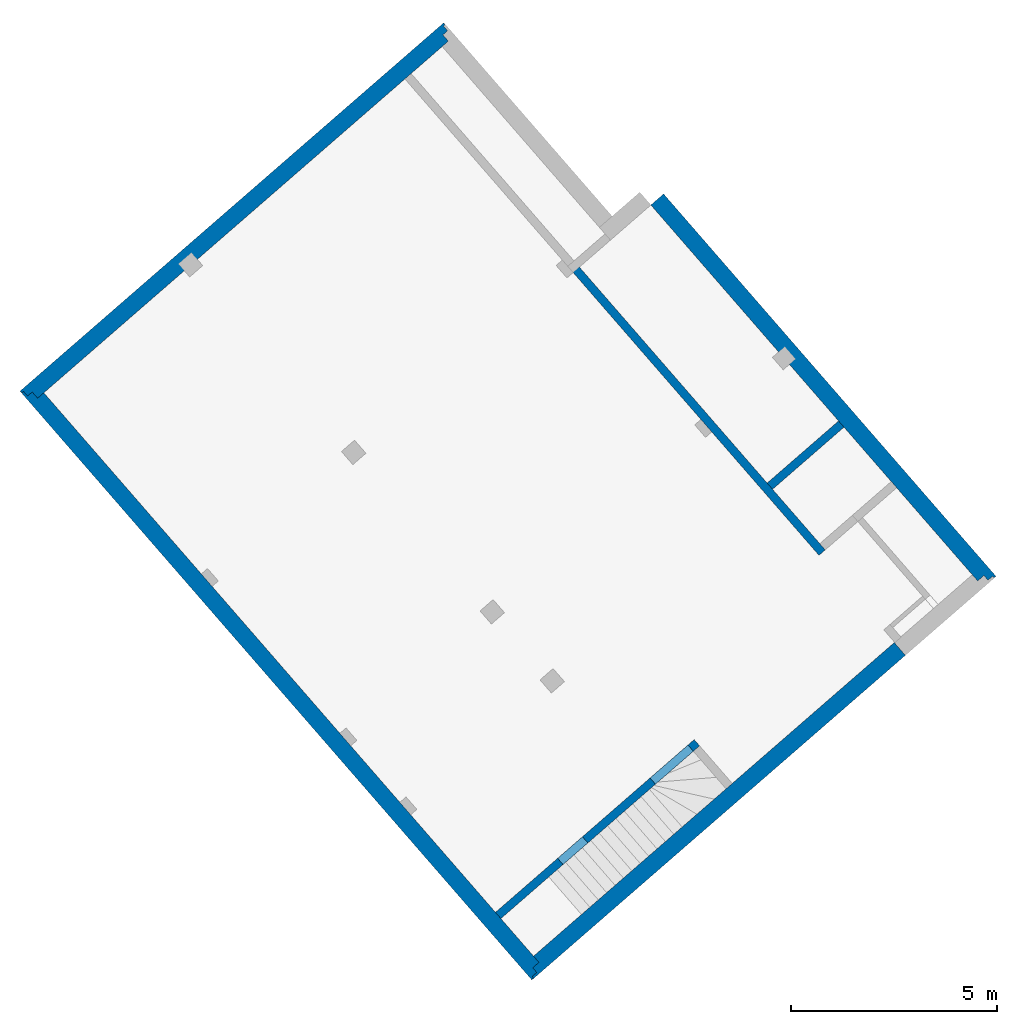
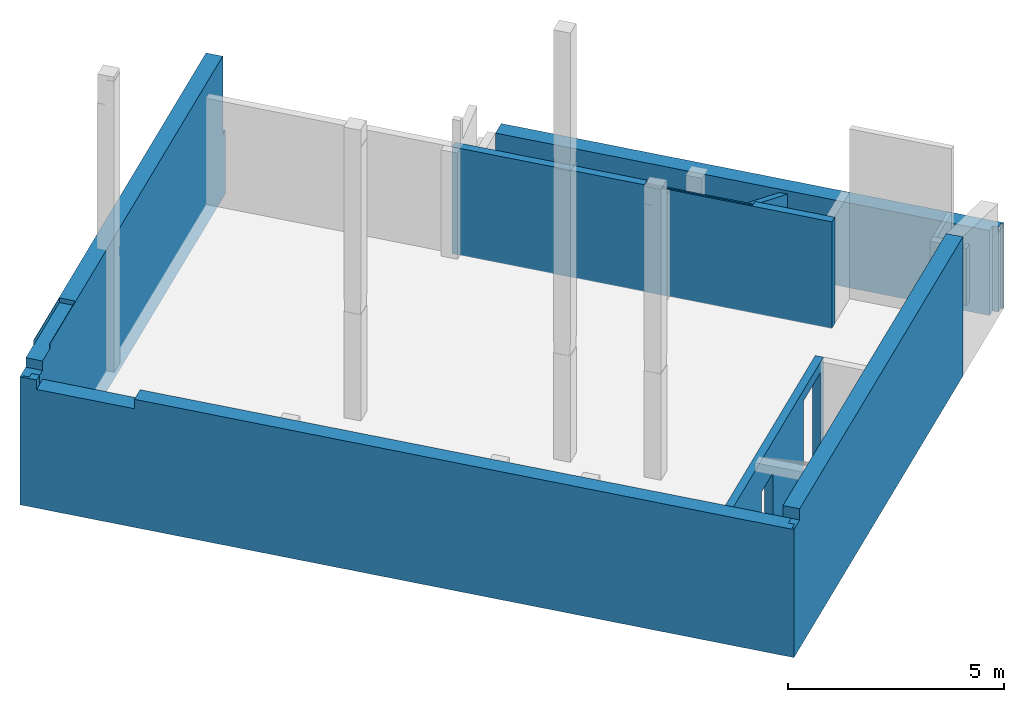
# One storey, part 3 of 4: 7 walls.
"""IFC2X3 building model written with IfcOpenShell, lengths in millimetres."""

from ifc_helpers import new_model, entity, si_unit, converted_unit, derived_unit, money_unit, direction, frame, origin_with_axes, place, context, subcontext, project, spatial, faceted_brep, material, material_list, type_object, element, save


model = new_model("IFC2X3")

# Units and contexts
model_context = context("Model", 3, precision=1e-05, world=origin_with_axes(), true_north=direction((0.0, 1.0)))
body_context = subcontext(model_context, "Body", "Model", "MODEL_VIEW")
ifc_project = project(units=[si_unit("LENGTHUNIT", "METRE", prefix="MILLI"), si_unit("AREAUNIT", "SQUARE_METRE"), si_unit("VOLUMEUNIT", "CUBIC_METRE"), converted_unit("PLANEANGLEUNIT", "DEGREE", entity("IfcPlaneAngleMeasure", 0.0174532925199), si_unit("PLANEANGLEUNIT", "RADIAN"), dimensions=[0, 0, 0, 0, 0, 0, 0]), si_unit("SOLIDANGLEUNIT", "STERADIAN"), money_unit("EUR"), converted_unit("TIMEUNIT", "Year", entity("IfcTimeMeasure", 31556926.0), si_unit("TIMEUNIT", "SECOND"), dimensions=[0, 0, 1, 0, 0, 0, 0]), si_unit("MASSUNIT", "GRAM", prefix="KILO"), si_unit("THERMODYNAMICTEMPERATUREUNIT", "DEGREE_CELSIUS"), si_unit("LUMINOUSINTENSITYUNIT", "LUMEN"), si_unit("ENERGYUNIT", "JOULE", prefix="MEGA"), derived_unit("THERMALCONDUCTANCEUNIT", [(si_unit("POWERUNIT", "WATT"), 1), (si_unit("LENGTHUNIT", "METRE"), -1), (si_unit("THERMODYNAMICTEMPERATUREUNIT", "KELVIN"), -1)]), derived_unit("SPECIFICHEATCAPACITYUNIT", [(si_unit("ENERGYUNIT", "JOULE"), 1), (si_unit("MASSUNIT", "GRAM", prefix="KILO"), -1), (si_unit("THERMODYNAMICTEMPERATUREUNIT", "KELVIN"), -1)]), derived_unit("MASSDENSITYUNIT", [(si_unit("MASSUNIT", "GRAM", prefix="KILO"), 1), (si_unit("VOLUMEUNIT", "CUBIC_METRE"), -1)])], contexts=[model_context])

# Site, building, storey
site_placement = place(None, origin_with_axes())
site = spatial("IfcSite", under=ifc_project, at=site_placement, Name="Site", CompositionType="ELEMENT")
building_placement = place(site_placement, origin_with_axes())
building = spatial("IfcBuilding", under=site, at=building_placement, Name="Building", CompositionType="ELEMENT")
storey_placement = place(building_placement, frame((0.0, 0.0, -3415.0), z_axis=(0.0, 0.0, 1.0), x_axis=(1.0, 0.0, 0.0)))
storey = spatial("IfcBuildingStorey", under=building, at=storey_placement, Name="-1 korrus", CompositionType="ELEMENT", Elevation=-3415.0)

# Walls
ifc_material_1 = material(Name="Raudbetoon - Konstruktsioon")
ifc_material_2 = material(Name="Soojustus - Plastik Kõva")
ifc_material_3 = material(Name="Membraan - Veekindel")
ifc_material_list_1 = material_list([ifc_material_1, ifc_material_2, ifc_material_2, ifc_material_3, ifc_material_3])
wall_type_1 = type_object("IfcWallType", Name="VS-03*", PredefinedType="NOTDEFINED")
wall_1_placement = place(storey_placement, frame((137502.715935, 88874.0463807, -620.0), z_axis=(0.0, 0.0, 1.0), x_axis=(-0.754709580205, -0.65605902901, 0.0)))
element("IfcWall", 1, at=wall_1_placement, inside=storey, type_object=wall_type_1, material=ifc_material_list_1, Name="VS-03*", context=body_context, shape_type="Brep", body=[
    faceted_brep([(13020.0000057, 0.0, 0.0), (13020.0000057, 0.0, 3620.0), (13020.0000057, -200.0, 3620.0), (13020.0000057, -200.0, 0.0), (-200.0, 0.0, 0.0), (-200.0, 0.0, 1800.0), (0.0, 0.0, 1800.0), (0.0, 9.38544530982e-06, 2400.0), (0.0, 0.0, 4014.99999837), (12285.0000076, 3.14038288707e-05, 4014.99999864), (12285.0000076, 3.14038288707e-05, 3884.99999837), (12820.0000057, 0.0, 3884.99999837), (12820.0000057, 0.0, 3620.0), (12820.0000057, -200.0, 3620.0), (12820.0000057, -200.0, 3884.99999837), (12285.0000107, -200.0, 3884.99999837), (10460.0000101, -200.0, 3884.99999837), (10460.0000101, -200.0, 4015.0), (0.0, -200.0, 4014.99999837), (0.0, -200.000007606, 2400.0), (9.99999985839, -200.0, 2400.0), (9.99999985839, -200.0, 1800.0), (-200.0, -200.0, 1800.0), (-200.0, -200.0, 0.0), (9.99999984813, -10.0000008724, 1800.0), (0.0, -10.0000008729, 1800.0), (0.0, -10.0000008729, 2400.0), (12285.0000077, -9.99996859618, 4015.0), (10460.0000072, -9.99999712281, 4015.0), (12285.0000077, -9.99996859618, 3884.99999837), (10460.0000072, -9.99999712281, 3884.99999837), (9.99999984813, -10.0000008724, 2400.0)], [[[0, 1, 2, 3]], [[1, 0, 4, 5, 6, 7, 8, 9, 10, 11, 12]], [[1, 12, 13, 2]], [[3, 2, 13, 14, 15, 16, 17, 18, 19, 20, 21, 22, 23]], [[0, 3, 23, 4]], [[5, 4, 23, 22]], [[21, 24, 25, 6, 5, 22]], [[19, 18, 8, 7, 6, 25, 26]], [[27, 9, 8, 18, 17, 28]], [[27, 29, 10, 9]], [[14, 11, 10, 29, 15]], [[13, 12, 11, 14]], [[15, 29, 30, 16]], [[28, 17, 16, 30]], [[31, 20, 19, 26]], [[21, 20, 31, 24]], [[24, 31, 26, 25]], [[29, 27, 28, 30]]]),
    faceted_brep([(12285.000013, -350.0, 3884.99999837), (12285.0000107, -200.0, 3884.99999837), (10460.0000101, -200.0, 3884.99999837), (10460.0000125, -350.0, 3884.99999837), (12820.0000057, -350.0, 3884.99999837), (12820.0000057, -200.0, 3884.99999837), (12820.0000057, -200.0, 3620.0), (13170.0000057, -200.0, 3620.0), (13170.0000057, -200.0, 0.0), (-350.0, -200.0, 0.0), (-350.0, -200.0, 1800.0), (9.99999985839, -200.0, 1800.0), (9.99999985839, -200.0, 2400.0), (0.0, -200.000007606, 2400.0), (0.0, -200.0, 4014.99999837), (10460.0000101, -200.0, 4015.0), (10460.0000125, -350.0, 4015.0), (0.0, -350.0, 4014.99999837), (0.0, -350.0, 2400.0), (9.99999986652, -350.0, 2400.0), (9.99999986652, -350.0, 1800.0), (-349.999999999, -350.0, 1800.0), (-349.999999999, -350.0, 0.0), (13170.0000057, -350.0, 0.0), (13170.0000057, -350.0, 3620.0), (12820.0000057, -350.0, 3620.0)], [[[0, 1, 2, 3]], [[1, 0, 4, 5]], [[1, 5, 6, 7, 8, 9, 10, 11, 12, 13, 14, 15, 2]], [[2, 15, 16, 3]], [[4, 0, 3, 16, 17, 18, 19, 20, 21, 22, 23, 24, 25]], [[4, 25, 6, 5]], [[25, 24, 7, 6]], [[23, 8, 7, 24]], [[23, 22, 9, 8]], [[22, 21, 10, 9]], [[11, 10, 21, 20]], [[11, 20, 19, 12]], [[12, 19, 18, 13]], [[13, 18, 17, 14]], [[17, 16, 15, 14]]]),
    faceted_brep([(12285.0000138, -400.000000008, 3884.99999837), (12285.000013, -350.0, 3884.99999837), (10460.0000125, -350.0, 3884.99999837), (10460.0000133, -400.000000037, 3884.99999837), (12820.0000057, -400.0, 3884.99999837), (12820.0000057, -350.0, 3884.99999837), (12820.0000057, -350.0, 3620.0), (13220.0000057, -350.0, 3620.0), (13220.0000057, -350.0, 0.0), (-399.999999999, -350.0, 0.0), (-399.999999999, -350.0, 1800.0), (9.99999986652, -350.0, 1800.0), (9.99999986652, -350.0, 2400.0), (0.0, -350.0, 2400.0), (0.0, -350.0, 4014.99999837), (10460.0000125, -350.0, 4015.0), (10460.0000133, -400.0, 4014.99999837), (0.0, -400.0, 4014.99999837), (0.0, -400.00000247, 2400.0), (9.99999986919, -400.0, 2400.0), (9.99999986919, -400.0, 1800.0), (-399.999999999, -400.0, 1800.0), (-399.999999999, -400.0, 0.0), (13220.0000057, -400.0, 0.0), (13220.0000057, -400.0, 3620.0), (12820.0000057, -400.0, 3620.0)], [[[0, 1, 2, 3]], [[1, 0, 4, 5]], [[1, 5, 6, 7, 8, 9, 10, 11, 12, 13, 14, 15, 2]], [[2, 15, 16, 3]], [[4, 0, 3, 16, 17, 18, 19, 20, 21, 22, 23, 24, 25]], [[4, 25, 6, 5]], [[25, 24, 7, 6]], [[23, 8, 7, 24]], [[23, 22, 9, 8]], [[21, 10, 9, 22]], [[20, 11, 10, 21]], [[19, 12, 11, 20]], [[18, 13, 12, 19]], [[14, 13, 18, 17]], [[17, 16, 15, 14]]]),
    faceted_brep([(12285.0000139, -405.0, 4014.99999837), (12285.0000138, -400.0, 4014.99999837), (0.0, -400.0, 4014.99999837), (0.0, -405.0, 4014.99999837), (12285.0000138, -400.0, 3884.99999837), (12285.0000139, -405.0, 3884.99999837), (12820.0000057, -400.0, 3884.99999837), (12820.0000057, -400.0, 3620.0), (13225.0000057, -400.0, 3620.0), (13225.0000057, -400.0, 0.0), (-404.999999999, -400.0, 0.0), (-404.999999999, -400.0, 1800.0), (-409.999999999, -400.0, 1800.0), (-510.0, -400.0, 1800.0), (-510.0, -400.00000247, 2400.0), (0.0, -400.00000247, 2400.0), (0.0, -405.0, 2400.0), (-510.0, -405.0, 2400.0), (-510.0, -405.0, 1800.0), (-409.999999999, -405.0, 1800.0), (-404.999999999, -405.0, 1800.0), (-404.999999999, -405.0, 0.0), (13225.0000057, -405.0, 0.0), (13225.0000057, -405.0, 3620.0), (12820.0000057, -405.0, 3620.0), (12820.0000057, -405.0, 3884.99999837)], [[[0, 1, 2, 3]], [[4, 1, 0, 5]], [[4, 6, 7, 8, 9, 10, 11, 12, 13, 14, 15, 2, 1]], [[15, 16, 3, 2]], [[5, 0, 3, 16, 17, 18, 19, 20, 21, 22, 23, 24, 25]], [[6, 4, 5, 25]], [[6, 25, 24, 7]], [[24, 23, 8, 7]], [[22, 9, 8, 23]], [[22, 21, 10, 9]], [[20, 11, 10, 21]], [[20, 19, 12, 11]], [[13, 12, 19, 18]], [[13, 18, 17, 14]], [[16, 15, 14, 17]]]),
    faceted_brep([(12285.000014, -409.999968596, 4014.99999837), (12285.0000139, -405.0, 4014.99999837), (0.0, -405.0, 4014.99999837), (0.0, -410.0, 4014.99999837), (12285.0000139, -405.0, 3884.99999837), (12285.000014, -409.999968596, 3884.99999837), (12820.0000057, -405.0, 3884.99999837), (12820.0000057, -405.0, 3620.0), (13230.0000057, -405.0, 3620.0), (13230.0000057, -405.0, 0.0), (-409.999999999, -405.0, 0.0), (-409.999999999, -405.0, 1800.0), (-510.0, -405.0, 1800.0), (-510.0, -405.0, 2400.0), (0.0, -405.0, 2400.0), (0.0, -410.0, 2400.0), (-510.0, -410.0, 2400.0), (-510.0, -410.0, 1800.0), (-409.999999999, -410.0, 1800.0), (-409.999999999, -410.0, 0.0), (13230.0000057, -410.0, 0.0), (13230.0000057, -410.0, 3620.0), (12820.0000057, -410.0, 3620.0), (12820.0000057, -409.999960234, 3884.99999837)], [[[0, 1, 2, 3]], [[4, 1, 0, 5]], [[4, 6, 7, 8, 9, 10, 11, 12, 13, 14, 2, 1]], [[14, 15, 3, 2]], [[5, 0, 3, 15, 16, 17, 18, 19, 20, 21, 22, 23]], [[6, 4, 5, 23]], [[6, 23, 22, 7]], [[22, 21, 8, 7]], [[20, 9, 8, 21]], [[9, 20, 19, 10]], [[19, 18, 11, 10]], [[11, 18, 17, 12]], [[12, 17, 16, 13]], [[16, 15, 14, 13]]]),
])
wall_2_placement = place(storey_placement, frame((127827.339112, 80463.3696251, -620.0), z_axis=(0.0, 0.0, 1.0), x_axis=(0.656059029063, -0.75470958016, 0.0)))
element("IfcWall", 2, at=wall_2_placement, inside=storey, type_object=wall_type_1, material=ifc_material_list_1, Name="VS-03*", context=body_context, shape_type="Brep", body=[
    faceted_brep([(-0.000983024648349, -4.35955769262e-05, 3374.04884828), (2390.78269761, 0.0, 3374.04307221), (2390.80613206, 0.0, 3620.0), (18330.0000006, 0.0, 3620.0), (18330.0000006, 0.0, 0.0), (0.0, 0.0, 0.0), (-0.000985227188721, -200.0, 3364.05132466), (2390.40886082, -200.0, 3364.0455145), (2390.43324783, -200.0, 3620.0), (18329.9998791, -200.0, 3620.0), (18329.9998791, -200.0, 0.0), (-1.38271616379e-08, -200.0, 0.0)], [[[0, 1, 2, 3, 4, 5]], [[1, 0, 6, 7]], [[8, 2, 1, 7]], [[2, 8, 9, 3]], [[3, 9, 10, 4]], [[4, 10, 11, 5]], [[6, 0, 5, 11]], [[7, 6, 11, 10, 9, 8]]]),
    faceted_brep([(-0.000985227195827, -200.0, 3364.05132466), (2390.40886082, -200.0, 3364.0455145), (2390.43324783, -200.0, 3620.0), (18479.9998791, -200.0, 3620.0), (18479.9998791, -200.0, 0.0), (-200.000000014, -200.0, 0.0), (-200.000000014, -200.0, 3620.0), (-0.000985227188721, -200.0, 3620.0), (-0.000986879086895, -350.0, 3356.5531803), (2390.12848323, -350.0, 3356.54734622), (2390.15358466, -350.0, 3620.0), (18479.999788, -350.0, 3620.0), (18479.999788, -350.0, 0.0), (-200.000000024, -350.0, 0.0), (-200.000000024, -350.0, 3620.0), (-0.000986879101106, -350.0, 3620.0)], [[[0, 1, 2, 3, 4, 5, 6, 7]], [[1, 0, 8, 9]], [[10, 2, 1, 9]], [[2, 10, 11, 3]], [[3, 11, 12, 4]], [[4, 12, 13, 5]], [[13, 14, 6, 5]], [[15, 7, 6, 14]], [[0, 7, 15, 8]], [[8, 15, 14, 13, 12, 11, 10, 9]]]),
    faceted_brep([(-0.000986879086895, -350.0, 3356.5531803), (2390.12848323, -350.0, 3356.54734622), (2390.15358466, -350.0, 3620.0), (18529.999788, -350.0, 3620.0), (18529.999788, -350.0, 0.0), (-350.000000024, -350.0, 0.0), (-350.000000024, -350.0, 3620.0), (-0.000986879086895, -350.0, 3620.0), (-0.000987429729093, -400.0, 3354.05379885), (2390.03502403, -400.0, 3354.04795679), (2390.06219822, -400.0, 3620.0), (18529.9997576, -400.0, 3620.0), (18529.9997576, -400.0, 0.0), (-350.000000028, -400.0, 0.0), (-350.000000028, -400.0, 3620.0), (-0.000436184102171, -400.0, 3620.0)], [[[0, 1, 2, 3, 4, 5, 6, 7]], [[1, 0, 8, 9]], [[2, 1, 9, 10]], [[2, 10, 11, 3]], [[11, 12, 4, 3]], [[12, 13, 5, 4]], [[14, 6, 5, 13]], [[7, 6, 14, 15]], [[0, 7, 15, 8]], [[8, 15, 14, 13, 12, 11, 10, 9]]]),
    faceted_brep([(-0.000987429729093, -400.0, 3354.05379885), (2390.03502403, -400.0, 3354.04795679), (2390.06219822, -400.0, 3620.0), (18534.9997576, -400.0, 3620.0), (18534.9997576, -400.0, 0.0), (-400.000000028, -400.0, 0.0), (-400.000000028, -400.0, 3620.0), (-0.000436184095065, -400.0, 3620.0), (-0.000987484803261, -405.0, 3353.80386071), (2390.02567811, -405.0, 3353.79801785), (2390.05285408, -405.0, 3620.0), (18534.9997546, -405.0, 3620.0), (18534.9997546, -405.0, 0.0), (-400.000000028, -405.0, 0.0), (-400.000000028, -405.0, 3620.0), (-0.000436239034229, -405.0, 3620.0)], [[[0, 1, 2, 3, 4, 5, 6, 7]], [[1, 0, 8, 9]], [[2, 1, 9, 10]], [[3, 2, 10, 11]], [[11, 12, 4, 3]], [[12, 13, 5, 4]], [[14, 6, 5, 13]], [[14, 15, 7, 6]], [[0, 7, 15, 8]], [[8, 15, 14, 13, 12, 11, 10, 9]]]),
    faceted_brep([(-0.00098748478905, -405.0, 3353.80386071), (2390.02567811, -405.0, 3353.79801785), (2390.05285408, -405.0, 3620.0), (18539.9997546, -405.0, 3620.0), (18539.9997546, -405.0, 0.0), (-405.000000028, -405.0, 0.0), (-405.000000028, -405.0, 3620.0), (-0.000436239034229, -405.0, 3620.0), (-0.000987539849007, -410.0, 3353.55392256), (2390.01633219, -410.0, 3353.54807891), (2390.04350995, -410.0, 3620.0), (18539.9997516, -410.0, 3620.0), (18539.9997516, -410.0, 0.0), (-405.000000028, -410.0, 0.0), (-405.000000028, -410.0, 3620.0), (-0.000436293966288, -410.0, 3620.0)], [[[0, 1, 2, 3, 4, 5, 6, 7]], [[1, 0, 8, 9]], [[2, 1, 9, 10]], [[3, 2, 10, 11]], [[11, 12, 4, 3]], [[12, 13, 5, 4]], [[14, 6, 5, 13]], [[14, 15, 7, 6]], [[0, 7, 15, 8]], [[8, 15, 14, 13, 12, 11, 10, 9]]]),
])
wall_3_placement = place(storey_placement, frame((150378.185009, 76044.0425452, -620.0), z_axis=(0.0, 0.0, 1.0), x_axis=(-0.656059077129, 0.754709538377, 0.0)))
element("IfcWall", 3, at=wall_3_placement, inside=storey, type_object=wall_type_1, material=ifc_material_list_1, Name="VS-03*", context=body_context, shape_type="Brep", body=[
    faceted_brep([(11899.9945492, -200.0, 2400.0), (11899.9945492, 0.0, 2400.0), (-200.000000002, 0.0, 2400.0), (-199.999016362, -200.0, 2400.0), (11899.9945492, -200.0, 0.0), (11899.9945492, 0.0, 0.0), (-200.000000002, 0.0, 0.0), (-199.999016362, -200.0, 0.0)], [[[0, 1, 2, 3]], [[0, 4, 5, 1]], [[1, 5, 6, 2]], [[3, 2, 6, 7]], [[4, 0, 3, 7]], [[5, 4, 7, 6]]]),
    faceted_brep([(11899.9945492, -350.0, 2400.0), (11899.9945492, -200.0, 2400.0), (-349.999016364, -200.0, 2400.0), (-349.998278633, -350.0, 2400.0), (11899.9945492, -350.0, 0.0), (11899.9945492, -200.0, 0.0), (-349.999016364, -200.0, 0.0), (-349.998278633, -350.0, 0.0)], [[[0, 1, 2, 3]], [[0, 4, 5, 1]], [[1, 5, 6, 2]], [[3, 2, 6, 7]], [[4, 0, 3, 7]], [[5, 4, 7, 6]]]),
    faceted_brep([(11899.9945492, -400.0, 2400.0), (11899.9945492, -350.0, 2400.0), (-399.998278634, -350.0, 2400.0), (-399.998032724, -400.0, 2400.0), (11899.9945492, -400.0, 0.0), (11899.9945492, -350.0, 0.0), (-399.998278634, -350.0, 0.0), (-399.998032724, -400.0, 0.0)], [[[0, 1, 2, 3]], [[0, 4, 5, 1]], [[1, 5, 6, 2]], [[3, 2, 6, 7]], [[4, 0, 3, 7]], [[5, 4, 7, 6]]]),
    faceted_brep([(11899.9945492, -405.0, 2400.0), (11899.9945492, -400.0, 2400.0), (-404.998032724, -400.0, 2400.0), (-404.998008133, -405.0, 2400.0), (11899.9945492, -405.0, 0.0), (11899.9945492, -400.0, 0.0), (-404.998032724, -400.0, 0.0), (-404.998008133, -405.0, 0.0)], [[[0, 1, 2, 3]], [[0, 4, 5, 1]], [[1, 5, 6, 2]], [[3, 2, 6, 7]], [[4, 0, 3, 7]], [[5, 4, 7, 6]]]),
    faceted_brep([(11899.9945492, -410.0, 2400.0), (11899.9945492, -405.0, 2400.0), (-409.998008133, -405.0, 2400.0), (-409.997983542, -410.0, 2400.0), (11899.9945492, -410.0, 0.0), (11899.9945492, -405.0, 0.0), (-409.998008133, -405.0, 0.0), (-409.997983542, -410.0, 0.0)], [[[0, 1, 2, 3]], [[0, 4, 5, 1]], [[1, 5, 6, 2]], [[3, 2, 6, 7]], [[4, 0, 3, 7]], [[5, 4, 7, 6]]]),
])
ifc_material_list_2 = material_list([ifc_material_3, ifc_material_3, ifc_material_2, ifc_material_2, ifc_material_1])
wall_4_placement = place(storey_placement, frame((148483.872162, 74397.3249406, -620.0), z_axis=(0.0, 0.0, 1.0), x_axis=(-0.754709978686, -0.656058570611, 0.0)))
element("IfcWall", 4, at=wall_4_placement, inside=storey, type_object=wall_type_1, material=ifc_material_list_2, Name="VS-03*", context=body_context, shape_type="Brep", body=[
    faceted_brep([(12014.9997533, 405.0, 3620.0), (12014.9997502, 410.0, 3620.0), (11609.9999993, 410.0, 3620.0), (11609.9999993, 405.0, 3620.0), (12014.9997502, 410.0, 0.0), (12014.9997533, 405.0, 0.0), (0.0, 410.0, 0.0), (0.0, 410.0, 3935.00003696), (11609.9999993, 410.0, 3935.00003666), (11609.9999993, 405.0, 3935.00003666), (0.0, 405.0, 3935.00003696), (0.0, 405.0, 0.0)], [[[0, 1, 2, 3]], [[4, 1, 0, 5]], [[1, 4, 6, 7, 8, 2]], [[3, 2, 8, 9]], [[5, 0, 3, 9, 10, 11]], [[4, 5, 11, 6]], [[10, 7, 6, 11]], [[10, 9, 8, 7]]]),
    faceted_brep([(12009.9997563, 400.0, 3620.0), (12009.9997533, 405.0, 3620.0), (11609.9999993, 405.0, 3620.0), (11609.9999993, 400.0, 3620.0), (12009.9997533, 405.0, 0.0), (12009.9997563, 400.0, 0.0), (0.0, 405.0, 0.0), (0.0, 405.0, 3935.00003696), (11609.9999993, 405.0, 3935.00003666), (11609.9999993, 400.0, 3935.00003666), (0.0, 400.0, 3935.00003696), (0.0, 400.0, 0.0)], [[[0, 1, 2, 3]], [[4, 1, 0, 5]], [[1, 4, 6, 7, 8, 2]], [[3, 2, 8, 9]], [[5, 0, 3, 9, 10, 11]], [[4, 5, 11, 6]], [[10, 7, 6, 11]], [[10, 9, 8, 7]]]),
    faceted_brep([(11959.9997867, 350.0, 3620.0), (11959.9997563, 400.0, 3620.0), (11609.9999993, 400.0, 3620.0), (11609.9999993, 350.0, 3620.0), (11959.9997563, 400.0, 0.0), (11959.9997867, 350.0, 0.0), (0.0, 400.0, 0.0), (0.0, 400.0, 3935.00003696), (11609.9999993, 400.0, 3935.00003666), (11609.9999993, 350.0, 3935.00003666), (0.0, 350.0, 3935.00003696), (0.0, 350.0, 0.0)], [[[0, 1, 2, 3]], [[4, 1, 0, 5]], [[1, 4, 6, 7, 8, 2]], [[3, 2, 8, 9]], [[5, 0, 3, 9, 10, 11]], [[4, 5, 11, 6]], [[10, 7, 6, 11]], [[10, 9, 8, 7]]]),
    faceted_brep([(11809.9998778, 200.0, 3620.0), (11809.9997867, 350.0, 3620.0), (11609.9999993, 350.0, 3620.0), (11609.9999993, 200.0, 3620.0), (11809.9997867, 350.0, 0.0), (11809.9998778, 200.0, 0.0), (0.0, 350.0, 0.0), (0.0, 350.0, 3935.00003696), (11609.9999993, 350.0, 3935.00003666), (11609.9999993, 200.0, 3935.00003666), (0.0, 200.0, 3935.00003696), (0.0, 200.0, 0.0)], [[[0, 1, 2, 3]], [[4, 1, 0, 5]], [[1, 4, 6, 7, 8, 2]], [[3, 2, 8, 9]], [[5, 0, 3, 9, 10, 11]], [[4, 5, 11, 6]], [[10, 7, 6, 11]], [[10, 9, 8, 7]]]),
    faceted_brep([(11609.9999993, 0.0, 3620.0), (11609.9999993, 0.0, 0.0), (11609.9998778, 200.0, 0.0), (11609.9998778, 200.0, 3620.0), (11609.9999993, 200.0, 3935.00003666), (11609.9999993, 0.0, 3935.00003666), (0.0, 0.0, 3935.00003696), (0.0, 0.0, 0.0), (0.0, 200.0, 0.0), (0.0, 200.0, 3935.00003696)], [[[0, 1, 2, 3, 4, 5]], [[1, 0, 5, 6, 7]], [[2, 1, 7, 8]], [[3, 2, 8, 9, 4]], [[6, 5, 4, 9]], [[6, 9, 8, 7]]]),
])
wall_type_2 = type_object("IfcWallType", Name="SS-12", PredefinedType="NOTDEFINED")
wall_5_placement = place(storey_placement, frame((146654.449348, 76517.0776733, -20.0), z_axis=(0.0, 0.0, 1.0), x_axis=(-0.656059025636, 0.754709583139, 0.0)))
element("IfcWall", 5, at=wall_5_placement, inside=storey, type_object=wall_type_2, material=ifc_material_1, Name="SS-12", context=body_context, shape_type="Brep", body=[
    faceted_brep([(2623.12135607, -200.0, 2935.46622127), (1949.99993064, -200.0, 2935.46635473), (1949.99993064, -200.0, 3020.0), (0.0, -200.0, 3020.0), (0.0, -200.0, 0.0), (9300.00000481, -200.0, 0.0), (9300.00000481, -200.0, 3020.0), (4589.99993064, -200.0, 3020.0), (4589.99993064, -200.0, 2935.46583129), (3916.86173232, -200.0, 2935.46596475), (1949.9999235, -180.749996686, 2945.76064459), (1949.99987203, -41.9247004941, 3020.0), (1949.9999095, -142.999996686, 2965.94814459), (1949.99989551, -105.249996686, 2986.13564459), (1949.99988151, -67.4999966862, 3006.32314459), (4589.99987203, -41.9237216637, 3020.0), (9300.00000481, 0.0, 3020.0), (0.0, 0.0, 3020.0), (2149.99998853, -41.9246263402, 3020.0), (2375.71136942, -41.9245426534, 3020.0), (4164.28837464, -41.9238795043, 3020.0), (4379.99987303, -41.9237995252, 3020.0), (0.0, 0.0, 0.0), (9300.00000481, 0.0, 0.0), (4589.99988151, -67.4990178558, 3006.32314459), (4589.99989551, -105.249017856, 2986.13564459), (4589.9999095, -142.999017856, 2965.94814459), (4589.9999235, -180.749017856, 2945.76064459), (3269.9999095, -142.999507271, 2965.94814459), (3269.99988151, -67.499507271, 3006.32314459)], [[[0, 1, 2, 3, 4, 5, 6, 7, 8, 9]], [[1, 0, 10]], [[11, 2, 1, 10, 12, 13, 14]], [[15, 7, 6, 16, 17, 3, 2, 11, 18, 19, 20, 21]], [[22, 4, 3, 17]], [[4, 22, 23, 5]], [[23, 16, 6, 5]], [[8, 7, 15, 24, 25, 26, 27]], [[9, 8, 27]], [[0, 9, 27, 28, 10]], [[12, 10, 28]], [[13, 12, 28]], [[13, 29, 14]], [[19, 18, 11, 14, 29]], [[22, 17, 16, 23]], [[20, 19, 29]], [[21, 20, 29, 24, 15]], [[25, 24, 29]], [[26, 25, 28]], [[28, 27, 26]], [[13, 28, 25, 29]]]),
])
wall_6_placement = place(storey_placement, frame((143754.226279, 71889.1803309, -620.0), z_axis=(0.0, 0.0, 1.0), x_axis=(-0.754709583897, -0.656059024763, 0.0)))
element("IfcWall", 6, at=wall_6_placement, inside=storey, type_object=wall_type_2, material=ifc_material_1, Name="SS-12", context=body_context, shape_type="Brep", body=[
    faceted_brep([(6395.00002344, 0.0, 3620.0), (6395.00002344, 0.0, 0.0), (0.0, 0.0, 0.0), (0.0, 0.0, 3620.0), (200.0, 0.0, 620.0), (200.0, 0.0, 400.0), (1420.0, 0.0, 400.0), (1420.0, 0.0, 620.0), (1420.0, 0.0, 3320.0), (200.0, 0.0, 3320.0), (4395.00002459, 0.0, 620.0), (4395.00002459, 0.0, 2720.0), (3595.00002459, 0.0, 2720.0), (3595.00002459, 0.0, 620.0), (3595.00002459, 0.0, 400.0), (4395.00002459, 0.0, 400.0), (6395.00002344, -200.0, 3620.0), (6395.00002344, -200.0, 0.0), (1.14127374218e-06, -200.0, 0.0), (1.14127374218e-06, -200.0, 3620.0), (200.0, -200.0, 620.0), (200.0, -200.0, 400.0), (1420.0, -200.0, 400.0), (1420.0, -200.0, 620.0), (1420.0, -200.0, 3320.0), (200.0, -200.0, 3320.0), (4395.00002459, -200.0, 620.0), (4395.00002459, -200.0, 2720.0), (3595.00002459, -200.0, 2720.0), (3595.00002459, -200.0, 620.0), (3595.00002459, -200.0, 400.0), (4395.00002459, -200.0, 400.0)], [[[0, 1, 2, 3], [4, 5, 6, 7, 8, 9], [10, 11, 12, 13, 14, 15]], [[16, 17, 1, 0]], [[1, 17, 18, 2]], [[19, 3, 2, 18]], [[16, 0, 3, 19]], [[20, 21, 5, 4]], [[5, 21, 22, 6]], [[7, 6, 22, 23]], [[7, 23, 24, 8]], [[8, 24, 25, 9]], [[9, 25, 20, 4]], [[11, 10, 26, 27]], [[12, 11, 27, 28]], [[13, 12, 28, 29]], [[13, 29, 30, 14]], [[14, 30, 31, 15]], [[26, 10, 15, 31]], [[17, 16, 19, 18], [21, 20, 25, 24, 23, 22], [27, 26, 31, 30, 29, 28]]]),
])
wall_7_placement = place(storey_placement, frame((147261.908196, 79628.9089312, -20.0), z_axis=(0.0, 0.0, 1.0), x_axis=(-0.754709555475, -0.656059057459, 0.0)))
element("IfcWall", 7, at=wall_7_placement, inside=storey, type_object=wall_type_2, material=ifc_material_1, Name="SS-12", context=body_context, shape_type="Brep", body=[
    faceted_brep([(6.57123564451e-05, -200.0, 1705.49946909), (-7.98650034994e-09, -0.00077167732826, 1705.49946909), (0.0, 0.0, 0.0), (0.0, -200.0, 0.0), (16.499999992, -0.000766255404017, 1714.32314459), (16.5000657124, -200.0, 1714.32314459), (2281.49999999, -2.19696190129e-05, 2925.57314459), (2300.00000489, -1.58904640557e-05, 2935.46635912), (2300.00000489, 0.0, 0.0), (54.249999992, -0.000753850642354, 1734.51064459), (91.999999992, -0.000741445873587, 1754.69814459), (129.749999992, -0.000729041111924, 1774.88564459), (167.499999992, -0.000716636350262, 1795.07314459), (205.249999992, -0.0007042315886, 1815.26064459), (242.999999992, -0.000691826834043, 1835.44814459), (280.749999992, -0.00067942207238, 1855.63564459), (318.499999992, -0.000667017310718, 1875.82314459), (356.249999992, -0.000654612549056, 1896.01064459), (393.999999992, -0.000642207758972, 1916.19814459), (431.749999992, -0.000629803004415, 1936.38564459), (469.499999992, -0.000617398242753, 1956.57314459), (507.249999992, -0.00060499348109, 1976.76064459), (544.999999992, -0.000592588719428, 1996.94814459), (582.749999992, -0.00058018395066, 2017.13564459), (620.499999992, -0.000567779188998, 2037.32314459), (658.249999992, -0.000555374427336, 2057.51064459), (695.999999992, -0.000542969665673, 2077.69814459), (733.749999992, -0.000530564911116, 2097.88564459), (771.499999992, -0.000518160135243, 2118.07314459), (809.249999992, -0.000505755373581, 2138.26064459), (846.999999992, -0.000493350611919, 2158.44814459), (884.749999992, -0.000480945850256, 2178.63564459), (922.499999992, -0.000468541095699, 2198.82314459), (960.249999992, -0.000456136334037, 2219.01064459), (997.999999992, -0.000443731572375, 2239.19814459), (1035.74999999, -0.000431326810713, 2259.38564459), (1073.49999999, -0.00041892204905, 2279.57314459), (1111.24999999, -0.000406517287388, 2299.76064459), (1148.99999999, -0.000394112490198, 2319.94814459), (1186.74999999, -0.000381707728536, 2340.13564459), (1224.49999999, -0.000369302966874, 2360.32314459), (1262.24999999, -0.000356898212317, 2380.51064459), (1299.99999999, -0.000344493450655, 2400.69814459), (1337.74999999, -0.000332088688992, 2420.88564459), (1375.49999999, -0.00031968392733, 2441.07314459), (1413.24999999, -0.000307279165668, 2461.26064459), (1450.99999999, -0.000294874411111, 2481.44814459), (1488.74999999, -0.000282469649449, 2501.63564459), (1526.49999999, -0.000270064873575, 2521.82314459), (1564.24999999, -0.000257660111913, 2542.01064459), (1601.99999999, -0.000245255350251, 2562.19814459), (1639.74999999, -0.000232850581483, 2582.38564459), (1677.49999999, -0.000220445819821, 2602.57314459), (1715.24999999, -0.000208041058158, 2622.76064459), (1752.99999999, -0.000195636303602, 2642.94814459), (1790.74999999, -0.000183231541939, 2663.13564459), (1828.49999999, -0.000170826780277, 2683.32314459), (1866.24999999, -0.000158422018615, 2703.51064459), (1903.99999999, -0.000146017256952, 2723.69814459), (1941.74999999, -0.000133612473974, 2743.88564459), (1979.49999999, -0.000121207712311, 2764.07314459), (2017.24999999, -0.000108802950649, 2784.26064459), (2054.99999999, -9.63981889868e-05, 2804.44814459), (2092.74999999, -8.39934273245e-05, 2824.63564459), (2130.49999999, -7.15886656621e-05, 2844.82314459), (2168.24999999, -5.91839111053e-05, 2865.01064459), (2205.99999999, -4.67791352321e-05, 2885.19814459), (2243.74999999, -3.43743735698e-05, 2905.38564459), (2300.00000489, -200.0, 0.0), (2300.00000489, -200.0, 2935.46632398), (2281.50006571, -200.0, 2925.57314459), (2249.46976175, -200.0, 2908.44435621), (2238.03036978, -200.0, 2902.32693302), (2206.00006571, -200.0, 2885.19814459), (2173.96976104, -200.0, 2868.06935583), (2162.53037049, -200.0, 2861.9519334), (2130.50006571, -200.0, 2844.82314459), (2098.46976033, -200.0, 2827.69435545), (2087.0303712, -200.0, 2821.57693378), (2055.00006571, -200.0, 2804.44814459), (2022.96975962, -200.0, 2787.31935507), (2011.53037191, -200.0, 2781.20193416), (1979.50006571, -200.0, 2764.07314459), (1947.46975891, -200.0, 2746.94435469), (1936.03037262, -200.0, 2740.82693454), (1904.00006571, -200.0, 2723.69814459), (1871.96975821, -200.0, 2706.56935431), (1860.53037333, -200.0, 2700.45193492), (1828.50006571, -200.0, 2683.32314459), (1796.4697575, -200.0, 2666.19435393), (1785.03037404, -200.0, 2660.0769353), (1753.00006571, -200.0, 2642.94814459), (1720.96975679, -200.0, 2625.81935355), (1709.53037475, -200.0, 2619.70193568), (1677.50006571, -200.0, 2602.57314459), (1645.46975608, -200.0, 2585.44435317), (1634.03037546, -200.0, 2579.32693605), (1602.00006571, -200.0, 2562.19814459), (1569.96975537, -200.0, 2545.0693528), (1558.53037617, -200.0, 2538.95193643), (1526.50006571, -200.0, 2521.82314459), (1494.46975466, -200.0, 2504.69435242), (1483.03037687, -200.0, 2498.57693681), (1451.00006571, -200.0, 2481.44814459), (1418.96975395, -200.0, 2464.31935204), (1407.53037758, -200.0, 2458.20193719), (1375.50006571, -200.0, 2441.07314459), (1343.46975324, -200.0, 2423.94435166), (1332.03037829, -200.0, 2417.82693757), (1300.00006571, -200.0, 2400.69814459), (1267.96975253, -200.0, 2383.56935128), (1256.530379, -200.0, 2377.45193795), (1224.50006571, -200.0, 2360.32314459), (1192.46975182, -200.0, 2343.1943509), (1181.03037971, -200.0, 2337.07693833), (1149.00006571, -200.0, 2319.94814459), (1116.96975111, -200.0, 2302.81935052), (1105.53038042, -200.0, 2296.70193871), (1073.50006571, -200.0, 2279.57314459), (1041.4697504, -200.0, 2262.44435014), (1030.03038113, -200.0, 2256.32693909), (998.000065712, -200.0, 2239.19814459), (965.969749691, -200.0, 2222.06934976), (954.530381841, -200.0, 2215.95193947), (922.500065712, -200.0, 2198.82314459), (890.469748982, -200.0, 2181.69434938), (879.030382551, -200.0, 2175.57693985), (847.000065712, -200.0, 2158.44814459), (814.969748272, -200.0, 2141.319349), (803.53038326, -200.0, 2135.20194023), (771.500065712, -200.0, 2118.07314459), (739.469747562, -200.0, 2100.94434862), (728.03038397, -200.0, 2094.82694061), (696.000065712, -200.0, 2077.69814459), (663.969746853, -200.0, 2060.56934824), (652.530384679, -200.0, 2054.45194099), (620.500065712, -200.0, 2037.32314459), (588.469746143, -200.0, 2020.19434786), (577.030385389, -200.0, 2014.07694137), (545.000065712, -200.0, 1996.94814459), (512.969745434, -200.0, 1979.81934748), (501.530386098, -200.0, 1973.70194175), (469.500065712, -200.0, 1956.57314459), (437.469744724, -200.0, 1939.4443471), (426.030386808, -200.0, 1933.32694213), (394.000065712, -200.0, 1916.19814459), (361.969744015, -200.0, 1899.06934672), (350.530387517, -200.0, 1892.9519425), (318.500065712, -200.0, 1875.82314459), (286.469743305, -200.0, 1858.69434635), (275.030391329, -200.0, 1852.57694454), (243.00006882, -200.0, 1835.44814625), (210.969745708, -200.0, 1818.31934763), (199.530388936, -200.0, 1812.20194326), (167.500065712, -200.0, 1795.07314459), (135.469741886, -200.0, 1777.94434559), (124.030389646, -200.0, 1771.82694364), (92.0000657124, -200.0, 1754.69814459), (59.9697411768, -200.0, 1737.56934521), (48.5303903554, -200.0, 1731.45194402)], [[[0, 1, 2, 3]], [[4, 1, 0, 5]], [[6, 7, 8, 2, 1, 4, 9, 10, 11, 12, 13, 14, 15, 16, 17, 18, 19, 20, 21, 22, 23, 24, 25, 26, 27, 28, 29, 30, 31, 32, 33, 34, 35, 36, 37, 38, 39, 40, 41, 42, 43, 44, 45, 46, 47, 48, 49, 50, 51, 52, 53, 54, 55, 56, 57, 58, 59, 60, 61, 62, 63, 64, 65, 66, 67]], [[3, 2, 8, 68]], [[5, 0, 3, 68, 69, 70, 71, 72, 73, 74, 75, 76, 77, 78, 79, 80, 81, 82, 83, 84, 85, 86, 87, 88, 89, 90, 91, 92, 93, 94, 95, 96, 97, 98, 99, 100, 101, 102, 103, 104, 105, 106, 107, 108, 109, 110, 111, 112, 113, 114, 115, 116, 117, 118, 119, 120, 121, 122, 123, 124, 125, 126, 127, 128, 129, 130, 131, 132, 133, 134, 135, 136, 137, 138, 139, 140, 141, 142, 143, 144, 145, 146, 147, 148, 149, 150, 151, 152, 153, 154, 155, 156, 157, 158, 159]], [[9, 4, 5, 159]], [[7, 6, 70, 69]], [[7, 69, 68, 8]], [[10, 9, 158, 157]], [[11, 10, 157, 156]], [[12, 11, 155, 154]], [[13, 12, 154, 153]], [[14, 13, 152, 151]], [[15, 14, 151, 150]], [[16, 15, 149, 148]], [[17, 16, 148, 147]], [[18, 17, 146, 145]], [[19, 18, 145, 144]], [[20, 19, 143, 142]], [[21, 20, 142, 141]], [[22, 21, 140, 139]], [[23, 22, 139, 138]], [[24, 23, 137, 136]], [[25, 24, 136, 135]], [[26, 25, 134, 133]], [[27, 26, 133, 132]], [[28, 27, 131, 130]], [[29, 28, 130, 129]], [[30, 29, 128, 127]], [[31, 30, 127, 126]], [[32, 31, 125, 124]], [[33, 32, 124, 123]], [[34, 33, 122, 121]], [[35, 34, 121, 120]], [[36, 35, 119, 118]], [[37, 36, 118, 117]], [[38, 37, 116, 115]], [[39, 38, 115, 114]], [[40, 39, 113, 112]], [[41, 40, 112, 111]], [[42, 41, 110, 109]], [[43, 42, 109, 108]], [[44, 43, 107, 106]], [[45, 44, 106, 105]], [[46, 45, 104, 103]], [[47, 46, 103, 102]], [[48, 47, 101, 100]], [[49, 48, 100, 99]], [[50, 49, 98, 97]], [[51, 50, 97, 96]], [[52, 51, 95, 94]], [[53, 52, 94, 93]], [[54, 53, 92, 91]], [[55, 54, 91, 90]], [[56, 55, 89, 88]], [[57, 56, 88, 87]], [[58, 57, 86, 85]], [[59, 58, 85, 84]], [[60, 59, 83, 82]], [[61, 60, 82, 81]], [[62, 61, 80, 79]], [[63, 62, 79, 78]], [[64, 63, 77, 76]], [[65, 64, 76, 75]], [[66, 65, 74, 73]], [[67, 66, 73, 72]], [[6, 67, 71, 70]], [[72, 71, 67]], [[75, 74, 65]], [[78, 77, 63]], [[81, 80, 61]], [[84, 83, 59]], [[87, 86, 57]], [[90, 89, 55]], [[93, 92, 53]], [[96, 95, 51]], [[99, 98, 49]], [[102, 101, 47]], [[105, 104, 45]], [[108, 107, 43]], [[111, 110, 41]], [[114, 113, 39]], [[117, 116, 37]], [[120, 119, 35]], [[123, 122, 33]], [[126, 125, 31]], [[129, 128, 29]], [[132, 131, 27]], [[135, 134, 25]], [[138, 137, 23]], [[141, 140, 21]], [[144, 143, 19]], [[147, 146, 17]], [[150, 149, 15]], [[153, 152, 13]], [[156, 155, 11]], [[159, 158, 9]]]),
])

save(model, "model.ifc")
